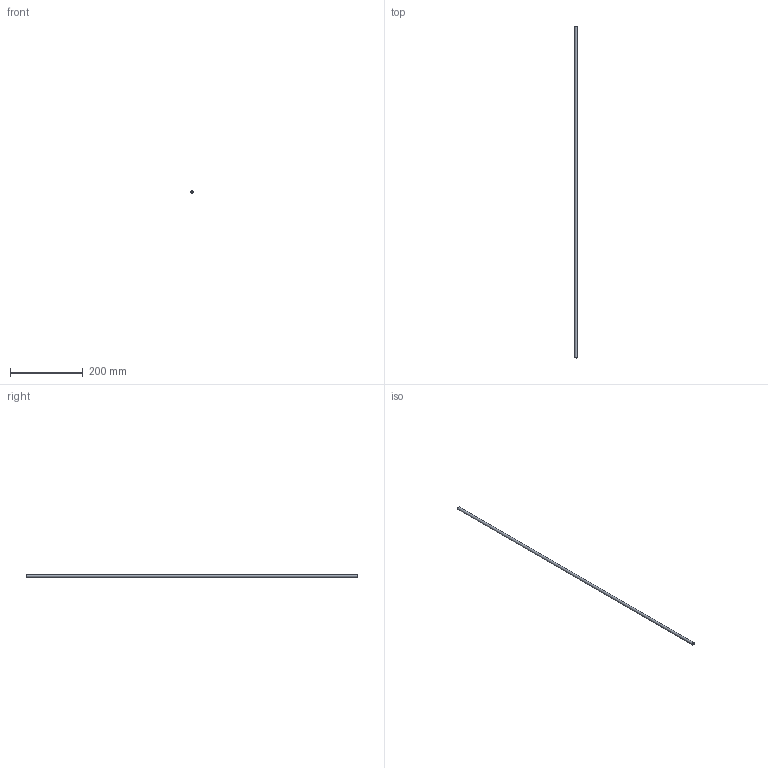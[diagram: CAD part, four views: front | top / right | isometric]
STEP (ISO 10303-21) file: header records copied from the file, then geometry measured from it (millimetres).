
FILE_DESCRIPTION(/* description */ (''),/* implementation_level */ '2;1');
FILE_NAME(/* name */ 'C:/Users/drich/Desktop/312T-36 v1.step',/* time_stamp */ '2019-12-27T17:30:36-06:00',/* author */ (''),/* organization */ (''),/* preprocessor_version */ 'ST-DEVELOPER v18',/* originating_system */ 'Autodesk Translation Framework v8.12.0.6',/* authorisation */ '');
FILE_SCHEMA (('AUTOMOTIVE_DESIGN { 1 0 10303 214 3 1 1 }'));
Length unit declared in the file: inch
Products named in the file (1): 312T-36
Bounding box: 7.82 x 914.4 x 7.82 mm (x, y, z)
Volume: 23462.1 mm3; surface area: 37825.7 mm2
Topology: 1 solids, 1 shells, 6 faces, 14 edges, 10 vertices
Faces by surface type: cone 2, cylinder 2, plane 2
Full cylindrical faces by diameter (mm): 5.334 x1, 7.818 x1
Entity records: 230 total; most frequent: DIRECTION 38, CARTESIAN_POINT 31, ORIENTED_EDGE 28, AXIS2_PLACEMENT_3D 17, EDGE_CURVE 14, CIRCLE 10, VERTEX_POINT 10, EDGE_LOOP 8
